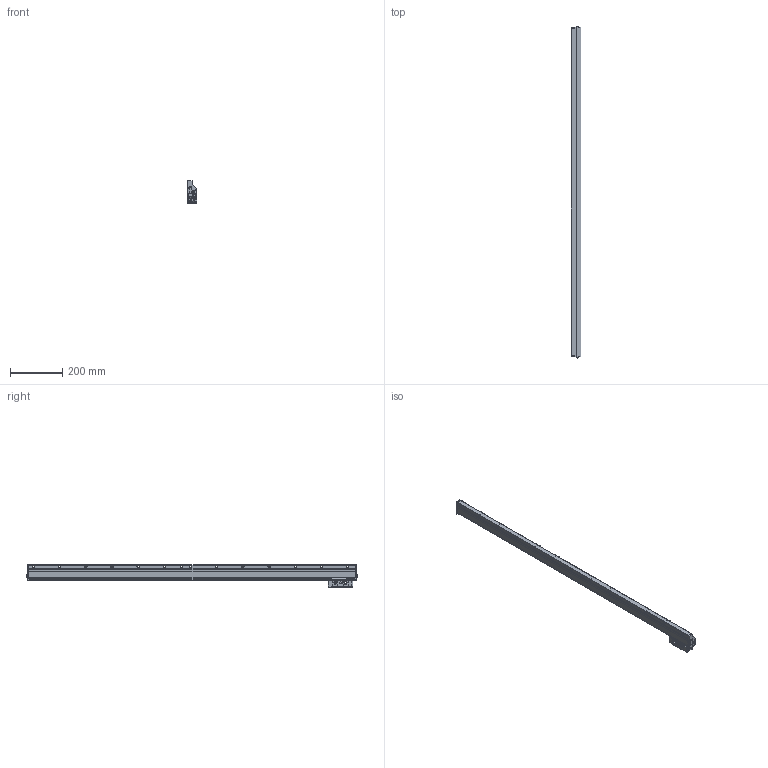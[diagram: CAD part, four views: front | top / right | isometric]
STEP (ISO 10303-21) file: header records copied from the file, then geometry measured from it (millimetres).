
FILE_DESCRIPTION(('Creo Elements/Direct Modeling STEP Export'),'2;1');
FILE_NAME('AT1123-1140.stp','2018-10-12T 9:13:37',(''),(''),'Creo Elements/Direct Modeling STEP processor for AP214 (Solid Model)','Creo Elements/Direct Modeling 18.1B 29-Sep-2012 (C) Parametric Technology GmbH','');
FILE_SCHEMA(('AUTOMOTIVE_DESIGN { 1 0 10303 214 1 1 1 1 }'));
Products named in the file (3): Scale_1140; DetectorHead; AT1123-1140
Assembly tree (2 placements, depth 2):
  AT1123-1140
    DetectorHead
    Scale_1140
Bounding box: 37 x 1268.44 x 85 mm (x, y, z)
Volume: 75071.2 mm3; surface area: 291098.9 mm2
Topology: 1 solids, 2 shells, 3050 faces, 8140 edges, 5283 vertices
Faces by surface type: plane 1815, cylinder 1013, cone 120, torus 69, bspline 13, sphere 12, extrusion 8
Entity records: 97591 total; most frequent: CARTESIAN_POINT 18103, ORIENTED_EDGE 16344, DIRECTION 15442, EDGE_CURVE 8121, VECTOR 5316, LINE 5308, VERTEX_POINT 5283, AXIS2_PLACEMENT_3D 5063
